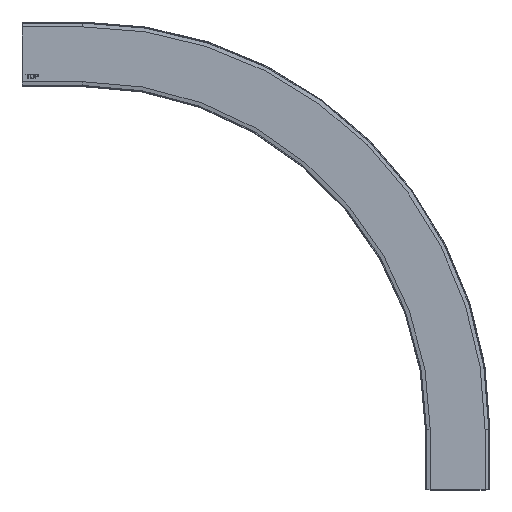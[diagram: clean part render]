
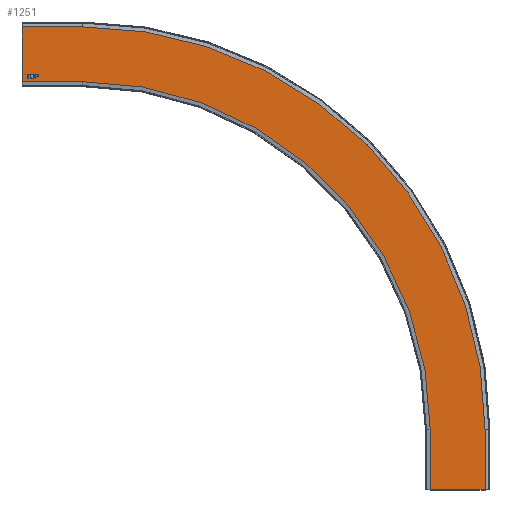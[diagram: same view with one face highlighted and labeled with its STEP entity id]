
A CAD part, top view. The second image highlights one B-rep face of the part: STEP entity #1251.
In plain terms, the highlighted planar face has unit normal (0, 0, 1).
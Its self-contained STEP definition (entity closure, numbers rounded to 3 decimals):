
#243=CARTESIAN_POINT('',(10.621,-29.49,0.0));
#244=VERTEX_POINT('',#243);
#251=CARTESIAN_POINT('',(13.541,-32.563,0.0));
#252=VERTEX_POINT('',#251);
#253=CARTESIAN_POINT('',(13.541,-32.563,0.0));
#254=CARTESIAN_POINT('',(12.676,-32.563,0.0));
#255=CARTESIAN_POINT('',(11.319,-31.731,0.0));
#256=CARTESIAN_POINT('',(10.621,-30.294,0.0));
#257=CARTESIAN_POINT('',(10.621,-29.49,0.0));
#258=QUASI_UNIFORM_CURVE('',2,(#253,#254,#255,#256,#257),.UNSPECIFIED.,.F.,.U.);
#259=EDGE_CURVE('',#252,#244,#258,.T.);
#292=CARTESIAN_POINT('',(16.456,-29.42,0.0));
#293=VERTEX_POINT('',#292);
#294=CARTESIAN_POINT('',(16.456,-29.42,0.0));
#295=CARTESIAN_POINT('',(16.456,-30.346,0.0));
#296=CARTESIAN_POINT('',(15.708,-31.81,0.0));
#297=CARTESIAN_POINT('',(14.331,-32.563,0.0));
#298=CARTESIAN_POINT('',(13.541,-32.563,0.0));
#299=QUASI_UNIFORM_CURVE('',2,(#294,#295,#296,#297,#298),.UNSPECIFIED.,.F.,.U.);
#300=EDGE_CURVE('',#293,#252,#299,.T.);
#333=CARTESIAN_POINT('',(13.541,-26.254,0.0));
#334=VERTEX_POINT('',#333);
#335=CARTESIAN_POINT('',(13.541,-26.254,0.0));
#336=CARTESIAN_POINT('',(14.387,-26.254,0.0));
#337=CARTESIAN_POINT('',(15.745,-27.063,0.0));
#338=CARTESIAN_POINT('',(16.456,-28.504,0.0));
#339=CARTESIAN_POINT('',(16.456,-29.42,0.0));
#340=QUASI_UNIFORM_CURVE('',2,(#335,#336,#337,#338,#339),.UNSPECIFIED.,.F.,.U.);
#341=EDGE_CURVE('',#334,#293,#340,.T.);
#369=CARTESIAN_POINT('',(10.621,-29.49,0.0));
#370=CARTESIAN_POINT('',(10.621,-27.97,0.0));
#371=CARTESIAN_POINT('',(12.253,-26.254,0.0));
#372=CARTESIAN_POINT('',(13.541,-26.254,0.0));
#373=QUASI_UNIFORM_CURVE('',2,(#369,#370,#371,#372),.UNSPECIFIED.,.F.,.U.);
#374=EDGE_CURVE('',#244,#334,#373,.T.);
#413=CARTESIAN_POINT('',(7.208,-32.461,0.0));
#414=VERTEX_POINT('',#413);
#421=CARTESIAN_POINT('',(8.017,-32.461,0.0));
#422=VERTEX_POINT('',#421);
#423=CARTESIAN_POINT('',(8.017,-32.461,0.0));
#424=DIRECTION('',(-1.0,0.0,0.0));
#425=VECTOR('',#424,0.809);
#426=LINE('',#423,#425);
#427=EDGE_CURVE('',#422,#414,#426,.T.);
#452=CARTESIAN_POINT('',(8.017,-27.082,0.0));
#453=VERTEX_POINT('',#452);
#454=CARTESIAN_POINT('',(8.017,-27.082,0.0));
#455=DIRECTION('',(0.0,-1.0,0.0));
#456=VECTOR('',#455,5.379);
#457=LINE('',#454,#456);
#458=EDGE_CURVE('',#453,#422,#457,.T.);
#483=CARTESIAN_POINT('',(10.035,-27.082,0.0));
#484=VERTEX_POINT('',#483);
#485=CARTESIAN_POINT('',(10.035,-27.082,0.0));
#486=DIRECTION('',(-1.0,0.0,0.0));
#487=VECTOR('',#486,2.018);
#488=LINE('',#485,#487);
#489=EDGE_CURVE('',#484,#453,#488,.T.);
#514=CARTESIAN_POINT('',(10.035,-26.361,0.0));
#515=VERTEX_POINT('',#514);
#516=CARTESIAN_POINT('',(10.035,-26.361,0.0));
#517=DIRECTION('',(0.0,-1.0,0.0));
#518=VECTOR('',#517,0.721);
#519=LINE('',#516,#518);
#520=EDGE_CURVE('',#515,#484,#519,.T.);
#545=CARTESIAN_POINT('',(5.2,-26.361,0.0));
#546=VERTEX_POINT('',#545);
#547=CARTESIAN_POINT('',(5.2,-26.361,0.0));
#548=DIRECTION('',(1.0,0.0,0.0));
#549=VECTOR('',#548,4.835);
#550=LINE('',#547,#549);
#551=EDGE_CURVE('',#546,#515,#550,.T.);
#576=CARTESIAN_POINT('',(5.2,-27.082,0.0));
#577=VERTEX_POINT('',#576);
#578=CARTESIAN_POINT('',(5.2,-27.082,0.0));
#579=DIRECTION('',(0.0,1.0,0.0));
#580=VECTOR('',#579,0.721);
#581=LINE('',#578,#580);
#582=EDGE_CURVE('',#577,#546,#581,.T.);
#607=CARTESIAN_POINT('',(7.208,-27.082,0.0));
#608=VERTEX_POINT('',#607);
#609=CARTESIAN_POINT('',(7.208,-27.082,0.0));
#610=DIRECTION('',(-1.0,0.0,0.0));
#611=VECTOR('',#610,2.009);
#612=LINE('',#609,#611);
#613=EDGE_CURVE('',#608,#577,#612,.T.);
#636=CARTESIAN_POINT('',(7.208,-32.461,0.0));
#637=DIRECTION('',(0.0,1.0,0.0));
#638=VECTOR('',#637,5.379);
#639=LINE('',#636,#638);
#640=EDGE_CURVE('',#414,#608,#639,.T.);
#877=CARTESIAN_POINT('',(17.493,-32.461,0.0));
#878=VERTEX_POINT('',#877);
#885=CARTESIAN_POINT('',(18.302,-32.461,0.0));
#886=VERTEX_POINT('',#885);
#887=CARTESIAN_POINT('',(18.302,-32.461,0.0));
#888=DIRECTION('',(-1.0,0.0,0.0));
#889=VECTOR('',#888,0.809);
#890=LINE('',#887,#889);
#891=EDGE_CURVE('',#886,#878,#890,.T.);
#916=CARTESIAN_POINT('',(18.302,-29.983,0.0));
#917=VERTEX_POINT('',#916);
#918=CARTESIAN_POINT('',(18.302,-29.983,0.0));
#919=DIRECTION('',(0.0,-1.0,0.0));
#920=VECTOR('',#919,2.478);
#921=LINE('',#918,#920);
#922=EDGE_CURVE('',#917,#886,#921,.T.);
#947=CARTESIAN_POINT('',(19.869,-29.983,0.0));
#948=VERTEX_POINT('',#947);
#949=CARTESIAN_POINT('',(19.869,-29.983,0.0));
#950=DIRECTION('',(-1.0,0.0,0.0));
#951=VECTOR('',#950,1.567);
#952=LINE('',#949,#951);
#953=EDGE_CURVE('',#948,#917,#952,.T.);
#983=CARTESIAN_POINT('',(22.152,-28.128,0.0));
#984=VERTEX_POINT('',#983);
#985=CARTESIAN_POINT('',(22.152,-28.128,0.0));
#986=CARTESIAN_POINT('',(22.152,-28.904,0.0));
#987=CARTESIAN_POINT('',(21.161,-29.983,0.0));
#988=CARTESIAN_POINT('',(19.869,-29.983,0.0));
#989=QUASI_UNIFORM_CURVE('',2,(#985,#986,#987,#988),.UNSPECIFIED.,.F.,.U.);
#990=EDGE_CURVE('',#984,#948,#989,.T.);
#1023=CARTESIAN_POINT('',(20.724,-26.422,0.0));
#1024=VERTEX_POINT('',#1023);
#1025=CARTESIAN_POINT('',(20.724,-26.422,0.0));
#1026=CARTESIAN_POINT('',(21.175,-26.496,0.0));
#1027=CARTESIAN_POINT('',(21.78,-26.914,0.0));
#1028=CARTESIAN_POINT('',(22.152,-27.672,0.0));
#1029=CARTESIAN_POINT('',(22.152,-28.128,0.0));
#1030=QUASI_UNIFORM_CURVE('',2,(#1025,#1026,#1027,#1028,#1029),.UNSPECIFIED.,.F.,.U.);
#1031=EDGE_CURVE('',#1024,#984,#1030,.T.);
#1058=CARTESIAN_POINT('',(19.794,-26.361,0.0));
#1059=VERTEX_POINT('',#1058);
#1060=CARTESIAN_POINT('',(19.794,-26.361,0.0));
#1061=CARTESIAN_POINT('',(20.403,-26.361,0.0));
#1062=CARTESIAN_POINT('',(20.724,-26.422,0.0));
#1063=QUASI_UNIFORM_CURVE('',2,(#1060,#1061,#1062),.UNSPECIFIED.,.F.,.U.);
#1064=EDGE_CURVE('',#1059,#1024,#1063,.T.);
#1089=CARTESIAN_POINT('',(17.493,-26.361,0.0));
#1090=VERTEX_POINT('',#1089);
#1091=CARTESIAN_POINT('',(17.493,-26.361,0.0));
#1092=DIRECTION('',(1.0,0.0,0.0));
#1093=VECTOR('',#1092,2.301);
#1094=LINE('',#1091,#1093);
#1095=EDGE_CURVE('',#1090,#1059,#1094,.T.);
#1118=CARTESIAN_POINT('',(17.493,-32.461,0.0));
#1119=DIRECTION('',(0.0,1.0,0.0));
#1120=VECTOR('',#1119,6.1);
#1121=LINE('',#1118,#1120);
#1122=EDGE_CURVE('',#878,#1090,#1121,.T.);
#1152=CARTESIAN_POINT('',(0.0,0.0,0.0));
#1153=DIRECTION('',(0.0,0.0,1.0));
#1154=DIRECTION('',(1.0,0.0,0.0));
#1155=AXIS2_PLACEMENT_3D('',#1152,#1153,#1154);
#1156=PLANE('',#1155);
#1157=CARTESIAN_POINT('',(0.0,36.5,0.0));
#1158=VERTEX_POINT('',#1157);
#1159=CARTESIAN_POINT('',(80.0,36.5,0.0));
#1160=VERTEX_POINT('',#1159);
#1161=CARTESIAN_POINT('',(0.0,36.5,0.0));
#1162=DIRECTION('',(1.0,0.0,0.0));
#1163=VECTOR('',#1162,80.0);
#1164=LINE('',#1161,#1163);
#1165=EDGE_CURVE('',#1158,#1160,#1164,.T.);
#1166=ORIENTED_EDGE('',*,*,#1165,.F.);
#1167=CARTESIAN_POINT('',(0.0,-36.5,0.0));
#1168=VERTEX_POINT('',#1167);
#1169=CARTESIAN_POINT('',(0.0,36.5,0.0));
#1170=DIRECTION('',(0.0,-1.0,0.0));
#1171=VECTOR('',#1170,73.0);
#1172=LINE('',#1169,#1171);
#1173=EDGE_CURVE('',#1158,#1168,#1172,.T.);
#1174=ORIENTED_EDGE('',*,*,#1173,.T.);
#1175=CARTESIAN_POINT('',(80.0,-36.5,0.0));
#1176=VERTEX_POINT('',#1175);
#1177=CARTESIAN_POINT('',(0.0,-36.5,0.0));
#1178=DIRECTION('',(1.0,0.0,0.0));
#1179=VECTOR('',#1178,80.0);
#1180=LINE('',#1177,#1179);
#1181=EDGE_CURVE('',#1168,#1176,#1180,.T.);
#1182=ORIENTED_EDGE('',*,*,#1181,.T.);
#1183=CARTESIAN_POINT('',(543.5,-500.,0.0));
#1184=VERTEX_POINT('',#1183);
#1185=CARTESIAN_POINT('',(80.0,-500.0,0.0));
#1186=DIRECTION('',(0.0,0.0,-1.0));
#1187=DIRECTION('',(-1.0,0.0,0.0));
#1188=AXIS2_PLACEMENT_3D('',#1185,#1186,#1187);
#1189=CIRCLE('',#1188,463.5);
#1190=EDGE_CURVE('',#1176,#1184,#1189,.T.);
#1191=ORIENTED_EDGE('',*,*,#1190,.T.);
#1192=CARTESIAN_POINT('',(543.5,-580.0,0.0));
#1193=VERTEX_POINT('',#1192);
#1194=CARTESIAN_POINT('',(543.5,-500.,0.0));
#1195=DIRECTION('',(0.0,-1.0,0.0));
#1196=VECTOR('',#1195,80.);
#1197=LINE('',#1194,#1196);
#1198=EDGE_CURVE('',#1184,#1193,#1197,.T.);
#1199=ORIENTED_EDGE('',*,*,#1198,.T.);
#1200=CARTESIAN_POINT('',(616.5,-580.0,0.0));
#1201=VERTEX_POINT('',#1200);
#1202=CARTESIAN_POINT('',(543.5,-580.,0.));
#1203=DIRECTION('',(1.0,0.0,0.0));
#1204=VECTOR('',#1203,73.0);
#1205=LINE('',#1202,#1204);
#1206=EDGE_CURVE('',#1193,#1201,#1205,.T.);
#1207=ORIENTED_EDGE('',*,*,#1206,.T.);
#1208=CARTESIAN_POINT('',(616.5,-500.,0.0));
#1209=VERTEX_POINT('',#1208);
#1210=CARTESIAN_POINT('',(616.5,-500.,0.0));
#1211=DIRECTION('',(0.0,-1.0,0.0));
#1212=VECTOR('',#1211,80.);
#1213=LINE('',#1210,#1212);
#1214=EDGE_CURVE('',#1209,#1201,#1213,.T.);
#1215=ORIENTED_EDGE('',*,*,#1214,.F.);
#1216=CARTESIAN_POINT('',(80.0,-500.0,0.0));
#1217=DIRECTION('',(0.0,0.0,-1.0));
#1218=DIRECTION('',(-1.0,0.0,0.0));
#1219=AXIS2_PLACEMENT_3D('',#1216,#1217,#1218);
#1220=CIRCLE('',#1219,536.5);
#1221=EDGE_CURVE('',#1160,#1209,#1220,.T.);
#1222=ORIENTED_EDGE('',*,*,#1221,.F.);
#1223=EDGE_LOOP('',(#1166,#1174,#1182,#1191,#1199,#1207,#1215,#1222));
#1224=FACE_OUTER_BOUND('',#1223,.T.);
#1225=ORIENTED_EDGE('',*,*,#259,.T.);
#1226=ORIENTED_EDGE('',*,*,#374,.T.);
#1227=ORIENTED_EDGE('',*,*,#341,.T.);
#1228=ORIENTED_EDGE('',*,*,#300,.T.);
#1229=EDGE_LOOP('',(#1225,#1226,#1227,#1228));
#1230=FACE_BOUND('',#1229,.T.);
#1231=ORIENTED_EDGE('',*,*,#427,.T.);
#1232=ORIENTED_EDGE('',*,*,#640,.T.);
#1233=ORIENTED_EDGE('',*,*,#613,.T.);
#1234=ORIENTED_EDGE('',*,*,#582,.T.);
#1235=ORIENTED_EDGE('',*,*,#551,.T.);
#1236=ORIENTED_EDGE('',*,*,#520,.T.);
#1237=ORIENTED_EDGE('',*,*,#489,.T.);
#1238=ORIENTED_EDGE('',*,*,#458,.T.);
#1239=EDGE_LOOP('',(#1231,#1232,#1233,#1234,#1235,#1236,#1237,#1238));
#1240=FACE_BOUND('',#1239,.T.);
#1241=ORIENTED_EDGE('',*,*,#891,.T.);
#1242=ORIENTED_EDGE('',*,*,#1122,.T.);
#1243=ORIENTED_EDGE('',*,*,#1095,.T.);
#1244=ORIENTED_EDGE('',*,*,#1064,.T.);
#1245=ORIENTED_EDGE('',*,*,#1031,.T.);
#1246=ORIENTED_EDGE('',*,*,#990,.T.);
#1247=ORIENTED_EDGE('',*,*,#953,.T.);
#1248=ORIENTED_EDGE('',*,*,#922,.T.);
#1249=EDGE_LOOP('',(#1241,#1242,#1243,#1244,#1245,#1246,#1247,#1248));
#1250=FACE_BOUND('',#1249,.T.);
#1251=ADVANCED_FACE('',(#1224,#1230,#1240,#1250),#1156,.T.);
